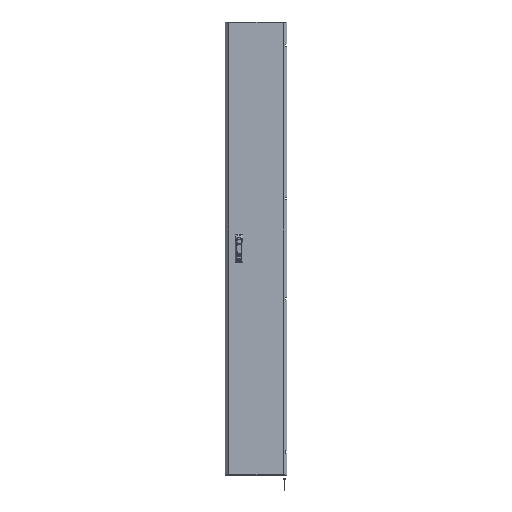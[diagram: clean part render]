
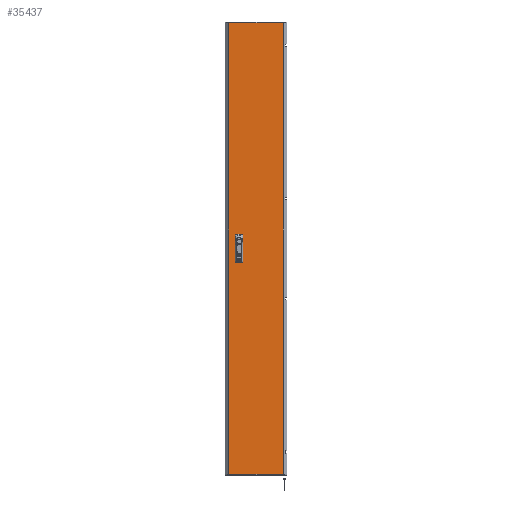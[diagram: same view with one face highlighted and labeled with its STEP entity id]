
A CAD part, top view. The second image highlights one B-rep face of the part: STEP entity #35437.
In plain terms, the highlighted planar face has unit normal (0, 0, 1).
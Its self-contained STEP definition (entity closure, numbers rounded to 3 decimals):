
#3307 = VERTEX_POINT ( 'NONE', #63278 ) ;
#4180 = ORIENTED_EDGE ( 'NONE', *, *, #122525, .T. ) ;
#6469 = ORIENTED_EDGE ( 'NONE', *, *, #105177, .T. ) ;
#6922 = LINE ( 'NONE', #60417, #7943 ) ;
#7943 = VECTOR ( 'NONE', #9010, 1000. ) ;
#8813 = DIRECTION ( 'NONE',  ( 1., 0., 0. ) ) ;
#9010 = DIRECTION ( 'NONE',  ( -1., 0., 0. ) ) ;
#9515 = CARTESIAN_POINT ( 'NONE',  ( -92.5, -62.5, 0. ) ) ;
#10424 = CARTESIAN_POINT ( 'NONE',  ( -92.5, -62.5, 0. ) ) ;
#11645 = CARTESIAN_POINT ( 'NONE',  ( 127.875, -1069.5, 0. ) ) ;
#11788 = DIRECTION ( 'NONE',  ( 0., -1., 0. ) ) ;
#14748 = AXIS2_PLACEMENT_3D ( 'NONE', #19235, #62153, #137395 ) ;
#16165 = CARTESIAN_POINT ( 'NONE',  ( -127.875, 1069.5, 0. ) ) ;
#16597 = VECTOR ( 'NONE', #132874, 1000. ) ;
#17898 = ORIENTED_EDGE ( 'NONE', *, *, #24829, .F. ) ;
#18645 = VECTOR ( 'NONE', #11788, 1000. ) ;
#19217 = CARTESIAN_POINT ( 'NONE',  ( -92.5, -12.5, 0. ) ) ;
#19235 = CARTESIAN_POINT ( 'NONE',  ( 0., 0., 0. ) ) ;
#21152 = VECTOR ( 'NONE', #93837, 1000. ) ;
#23145 = VECTOR ( 'NONE', #116274, 1000. ) ;
#24829 = EDGE_CURVE ( 'NONE', #24853, #37667, #29752, .T. ) ;
#24853 = VERTEX_POINT ( 'NONE', #30459 ) ;
#28108 = DIRECTION ( 'NONE',  ( 1., 0., 0. ) ) ;
#28361 = VERTEX_POINT ( 'NONE', #118074 ) ;
#29480 = LINE ( 'NONE', #40011, #121638 ) ;
#29502 = ORIENTED_EDGE ( 'NONE', *, *, #83070, .T. ) ;
#29752 = LINE ( 'NONE', #19217, #99548 ) ;
#29768 = FACE_BOUND ( 'NONE', #67465, .T. ) ;
#30459 = CARTESIAN_POINT ( 'NONE',  ( -67.5, -12.5, 0. ) ) ;
#30479 = PLANE ( 'NONE',  #14748 ) ;
#33423 = CARTESIAN_POINT ( 'NONE',  ( -92.5, 62.5, 0. ) ) ;
#35437 = ADVANCED_FACE ( 'NONE', ( #102325, #29768, #38239 ), #30479, .F. ) ;
#37667 = VERTEX_POINT ( 'NONE', #128471 ) ;
#38239 = FACE_OUTER_BOUND ( 'NONE', #51300, .T. ) ;
#40011 = CARTESIAN_POINT ( 'NONE',  ( -92.5, 12.5, 0. ) ) ;
#40986 = LINE ( 'NONE', #61445, #104983 ) ;
#43513 = VECTOR ( 'NONE', #97173, 1000. ) ;
#43521 = VERTEX_POINT ( 'NONE', #16165 ) ;
#45707 = VERTEX_POINT ( 'NONE', #58984 ) ;
#48444 = LINE ( 'NONE', #100583, #16597 ) ;
#50613 = VERTEX_POINT ( 'NONE', #127251 ) ;
#50753 = VERTEX_POINT ( 'NONE', #89228 ) ;
#51300 = EDGE_LOOP ( 'NONE', ( #4180, #6469, #123616, #29502 ) ) ;
#52646 = LINE ( 'NONE', #10424, #18645 ) ;
#55319 = ORIENTED_EDGE ( 'NONE', *, *, #114991, .F. ) ;
#56484 = ORIENTED_EDGE ( 'NONE', *, *, #134414, .F. ) ;
#56505 = EDGE_CURVE ( 'NONE', #43521, #3307, #116977, .T. ) ;
#58648 = LINE ( 'NONE', #101592, #23145 ) ;
#58984 = CARTESIAN_POINT ( 'NONE',  ( -92.5, -62.5, 0. ) ) ;
#60417 = CARTESIAN_POINT ( 'NONE',  ( -127.875, 1069.5, 0. ) ) ;
#61445 = CARTESIAN_POINT ( 'NONE',  ( -92.5, 62.5, 0. ) ) ;
#62109 = EDGE_CURVE ( 'NONE', #111930, #106796, #40986, .T. ) ;
#62137 = DIRECTION ( 'NONE',  ( -1., 0., 0. ) ) ;
#62153 = DIRECTION ( 'NONE',  ( 0., 0., -1. ) ) ;
#63278 = CARTESIAN_POINT ( 'NONE',  ( -127.875, -1069.5, 0. ) ) ;
#65164 = LINE ( 'NONE', #11645, #21152 ) ;
#65256 = ORIENTED_EDGE ( 'NONE', *, *, #99147, .F. ) ;
#67465 = EDGE_LOOP ( 'NONE', ( #17898, #126895, #55319, #92360 ) ) ;
#78686 = EDGE_CURVE ( 'NONE', #50613, #24853, #104478, .T. ) ;
#81890 = VERTEX_POINT ( 'NONE', #109174 ) ;
#83070 = EDGE_CURVE ( 'NONE', #3307, #81890, #48444, .T. ) ;
#84053 = ORIENTED_EDGE ( 'NONE', *, *, #62109, .F. ) ;
#88626 = CARTESIAN_POINT ( 'NONE',  ( -127.875, -1069.5, 0. ) ) ;
#89228 = CARTESIAN_POINT ( 'NONE',  ( -92.5, 12.5, 0. ) ) ;
#92360 = ORIENTED_EDGE ( 'NONE', *, *, #139200, .F. ) ;
#92858 = ORIENTED_EDGE ( 'NONE', *, *, #121794, .F. ) ;
#93837 = DIRECTION ( 'NONE',  ( 0., 1., 0. ) ) ;
#93929 = DIRECTION ( 'NONE',  ( 0., 1., 0. ) ) ;
#96485 = LINE ( 'NONE', #107035, #43513 ) ;
#97173 = DIRECTION ( 'NONE',  ( 0., -1., 0. ) ) ;
#97672 = VECTOR ( 'NONE', #137362, 1000. ) ;
#99147 = EDGE_CURVE ( 'NONE', #116153, #111930, #58648, .T. ) ;
#99548 = VECTOR ( 'NONE', #62137, 1000. ) ;
#100583 = CARTESIAN_POINT ( 'NONE',  ( -127.875, -1069.5, 0. ) ) ;
#101592 = CARTESIAN_POINT ( 'NONE',  ( -67.5, 12.5, 0. ) ) ;
#102325 = FACE_BOUND ( 'NONE', #125052, .T. ) ;
#103680 = DIRECTION ( 'NONE',  ( -1., 0., 0. ) ) ;
#104478 = LINE ( 'NONE', #106554, #131729 ) ;
#104983 = VECTOR ( 'NONE', #103680, 1000. ) ;
#105177 = EDGE_CURVE ( 'NONE', #28361, #43521, #6922, .T. ) ;
#106554 = CARTESIAN_POINT ( 'NONE',  ( -67.5, -62.5, 0. ) ) ;
#106796 = VERTEX_POINT ( 'NONE', #33423 ) ;
#107035 = CARTESIAN_POINT ( 'NONE',  ( -92.5, 12.5, 0. ) ) ;
#107653 = VECTOR ( 'NONE', #8813, 1000. ) ;
#109174 = CARTESIAN_POINT ( 'NONE',  ( 127.875, -1069.5, 0. ) ) ;
#111930 = VERTEX_POINT ( 'NONE', #135799 ) ;
#114991 = EDGE_CURVE ( 'NONE', #45707, #50613, #125624, .T. ) ;
#116153 = VERTEX_POINT ( 'NONE', #126859 ) ;
#116274 = DIRECTION ( 'NONE',  ( 0., 1., 0. ) ) ;
#116977 = LINE ( 'NONE', #88626, #97672 ) ;
#118074 = CARTESIAN_POINT ( 'NONE',  ( 127.875, 1069.5, 0. ) ) ;
#121638 = VECTOR ( 'NONE', #28108, 1000. ) ;
#121794 = EDGE_CURVE ( 'NONE', #106796, #50753, #96485, .T. ) ;
#122525 = EDGE_CURVE ( 'NONE', #81890, #28361, #65164, .T. ) ;
#123616 = ORIENTED_EDGE ( 'NONE', *, *, #56505, .T. ) ;
#125052 = EDGE_LOOP ( 'NONE', ( #84053, #65256, #56484, #92858 ) ) ;
#125624 = LINE ( 'NONE', #9515, #107653 ) ;
#126859 = CARTESIAN_POINT ( 'NONE',  ( -67.5, 12.5, 0. ) ) ;
#126895 = ORIENTED_EDGE ( 'NONE', *, *, #78686, .F. ) ;
#127251 = CARTESIAN_POINT ( 'NONE',  ( -67.5, -62.5, 0. ) ) ;
#128471 = CARTESIAN_POINT ( 'NONE',  ( -92.5, -12.5, 0. ) ) ;
#131729 = VECTOR ( 'NONE', #93929, 1000. ) ;
#132874 = DIRECTION ( 'NONE',  ( 1., 0., 0. ) ) ;
#134414 = EDGE_CURVE ( 'NONE', #50753, #116153, #29480, .T. ) ;
#135799 = CARTESIAN_POINT ( 'NONE',  ( -67.5, 62.5, 0. ) ) ;
#137362 = DIRECTION ( 'NONE',  ( 0., -1., 0. ) ) ;
#137395 = DIRECTION ( 'NONE',  ( -1., 0., 0. ) ) ;
#139200 = EDGE_CURVE ( 'NONE', #37667, #45707, #52646, .T. ) ;
